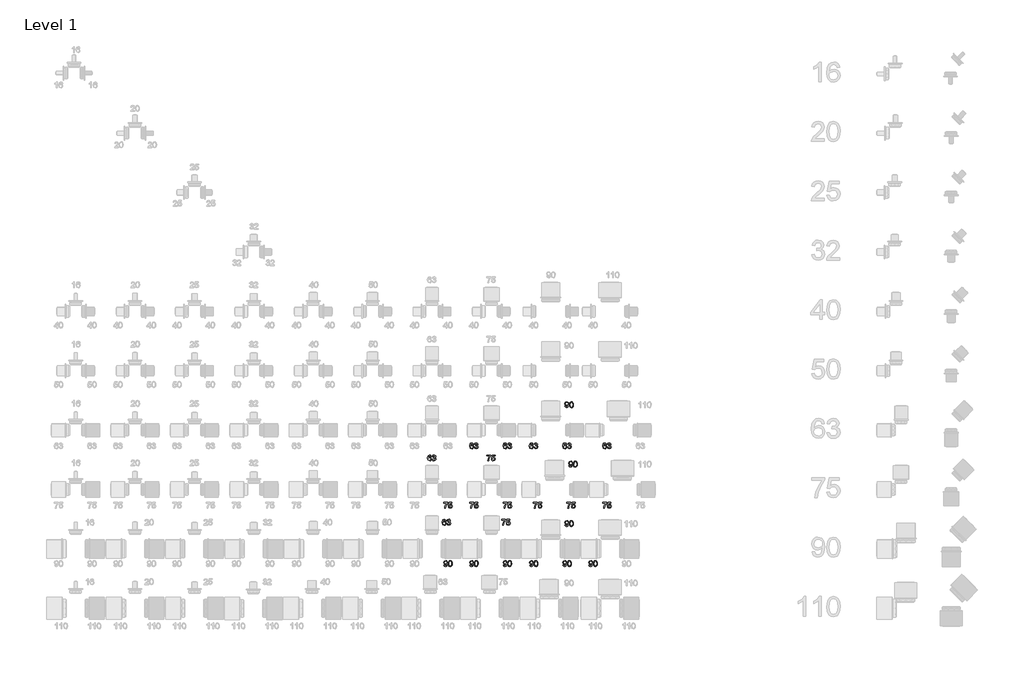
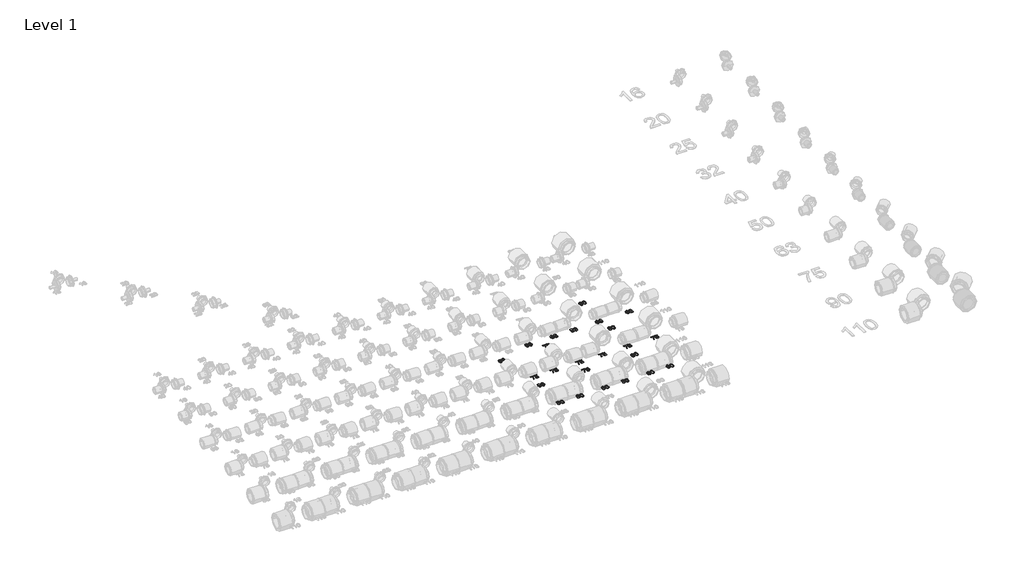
# One storey, part 23 of 58: 24 proxies.
"""IFC4 building model written with IfcOpenShell, lengths in millimetres."""

from ifc_helpers import new_model, si_unit, frame, origin, place, context, project, spatial, polyline, outline, extrude, element, save

model = new_model("IFC4")

# Units and contexts
model_context = context("Model", 3, world=origin())
ifc_project = project(units=[si_unit("LENGTHUNIT", "METRE", prefix="MILLI")], contexts=[model_context])

# Site, building, storey
site = spatial("IfcSite", under=ifc_project)
building = spatial("IfcBuilding", under=site)
storey = spatial("IfcBuildingStorey", under=building, Name="Level 1", Elevation=27.3876384)

# Proxies
placement = place(None, origin())
element("IfcBuildingElementProxy", 1, Name="30mm Arial", ObjectType="30mm Arial", at=placement, inside=storey, context=model_context, shape_type="SweptSolid", body=[
    extrude(outline(polyline([(15275.8418771, 16774.7106348), (15272.0747655, 16774.2397458), (15270.6473834, 16777.381458), (15266.8729141, 16778.9486353), (15263.4736845, 16778.036288), (15260.9021893, 16774.6113066), (15259.8316527, 16767.8974602), (15263.1536271, 16770.9030561), (15267.2702266, 16771.885301), (15273.6713734, 16769.1997625), (15276.3127661, 16762.261508), (15275.0693249, 16757.0633355), (15271.6480224, 16753.3845155), (15266.711046, 16752.107965), (15259.0333488, 16755.4924793), (15256.0645411, 16766.6466614), (15259.3607637, 16779.2797291), (15267.1083586, 16782.715747), (15273.0606892, 16780.589389), (15275.8418771, 16774.7106348)]), holes=[polyline([(15259.8316527, 16762.3203692), (15260.703533, 16759.0572559), (15263.0211896, 16756.6880958), (15266.4167404, 16755.8750766), (15270.8570761, 16757.5599761), (15272.5456545, 16762.1364282), (15270.879149, 16766.5179027), (15266.26223, 16768.1181894), (15261.7041721, 16766.5179027), (15259.8316527, 16762.3203692)])]), frame((0.0, 0.0, 27.3876384), z_axis=(0.0, 0.0, 1.0), x_axis=(1.0, 0.0, 0.0)), (0.0, 0.0, 1.0), 2.0),
    extrude(outline(polyline([(15279.6089888, 16760.5839661), (15283.3761004, 16761.0548551), (15285.4546337, 16757.0890872), (15289.3431464, 16755.8750766), (15293.9195984, 16757.5452609), (15295.6192132, 16761.6802545), (15293.9343137, 16765.5761248), (15289.6521672, 16767.1175504), (15287.0107745, 16766.7055225), (15287.43016, 16770.4726342), (15292.3082752, 16771.5100614), (15294.2065463, 16774.8357146), (15292.8306677, 16777.7824494), (15289.2842852, 16778.9486353), (15285.693757, 16777.771413), (15283.8469893, 16774.2397458), (15280.0798777, 16774.7106348), (15283.1627288, 16780.6188196), (15289.1518477, 16782.715747), (15293.6951904, 16781.6819986), (15296.8736908, 16778.8566648), (15297.973658, 16775.0564438), (15296.9288731, 16771.5836378), (15293.8386643, 16769.0893979), (15297.9442274, 16766.5142239), (15299.3863248, 16761.6140357), (15296.50213, 16754.8744376), (15289.2107088, 16752.107965), (15282.6035482, 16754.4697674), (15279.6089888, 16760.5839661)])), frame((0.0, 0.0, 27.3876384), z_axis=(0.0, 0.0, 1.0), x_axis=(1.0, 0.0, 0.0)), (0.0, 0.0, 1.0), 2.0),
])
element("IfcBuildingElementProxy", 2, Name="30mm Arial", ObjectType="30mm Arial", at=placement, inside=storey, context=model_context, shape_type="SweptSolid", body=[
    extrude(outline(polyline([(15444.5918771, 16774.7106348), (15440.8247655, 16774.2397458), (15439.3973834, 16777.381458), (15435.6229141, 16778.9486353), (15432.2236845, 16778.036288), (15429.6521893, 16774.6113066), (15428.5816527, 16767.8974602), (15431.9036271, 16770.9030561), (15436.0202266, 16771.885301), (15442.4213734, 16769.1997625), (15445.0627661, 16762.261508), (15443.8193249, 16757.0633355), (15440.3980224, 16753.3845155), (15435.461046, 16752.107965), (15427.7833488, 16755.4924793), (15424.8145411, 16766.6466614), (15428.1107637, 16779.2797291), (15435.8583586, 16782.715747), (15441.8106892, 16780.589389), (15444.5918771, 16774.7106348)]), holes=[polyline([(15428.5816527, 16762.3203692), (15429.453533, 16759.0572559), (15431.7711896, 16756.6880958), (15435.1667404, 16755.8750766), (15439.6070761, 16757.5599761), (15441.2956545, 16762.1364282), (15439.629149, 16766.5179027), (15435.01223, 16768.1181894), (15430.4541721, 16766.5179027), (15428.5816527, 16762.3203692)])]), frame((0.0, 0.0, 27.3876384), z_axis=(0.0, 0.0, 1.0), x_axis=(1.0, 0.0, 0.0)), (0.0, 0.0, 1.0), 2.0),
    extrude(outline(polyline([(15448.3589888, 16760.5839661), (15452.1261004, 16761.0548551), (15454.2046337, 16757.0890872), (15458.0931464, 16755.8750766), (15462.6695984, 16757.5452609), (15464.3692132, 16761.6802545), (15462.6843137, 16765.5761248), (15458.4021672, 16767.1175504), (15455.7607745, 16766.7055225), (15456.18016, 16770.4726342), (15461.0582752, 16771.5100614), (15462.9565463, 16774.8357146), (15461.5806677, 16777.7824494), (15458.0342852, 16778.9486353), (15454.443757, 16777.771413), (15452.5969893, 16774.2397458), (15448.8298777, 16774.7106348), (15451.9127288, 16780.6188196), (15457.9018477, 16782.715747), (15462.4451904, 16781.6819986), (15465.6236908, 16778.8566648), (15466.723658, 16775.0564438), (15465.6788731, 16771.5836378), (15462.5886643, 16769.0893979), (15466.6942274, 16766.5142239), (15468.1363248, 16761.6140357), (15465.25213, 16754.8744376), (15457.9607088, 16752.107965), (15451.3535482, 16754.4697674), (15448.3589888, 16760.5839661)])), frame((0.0, 0.0, 27.3876384), z_axis=(0.0, 0.0, 1.0), x_axis=(1.0, 0.0, 0.0)), (0.0, 0.0, 1.0), 2.0),
])
element("IfcBuildingElementProxy", 3, Name="30mm Arial", ObjectType="30mm Arial", at=placement, inside=storey, context=model_context, shape_type="SweptSolid", body=[
    extrude(outline(polyline([(15577.8418771, 16774.7106348), (15574.0747655, 16774.2397458), (15572.6473834, 16777.381458), (15568.8729141, 16778.9486353), (15565.4736845, 16778.036288), (15562.9021893, 16774.6113066), (15561.8316527, 16767.8974602), (15565.1536271, 16770.9030561), (15569.2702266, 16771.885301), (15575.6713734, 16769.1997625), (15578.3127661, 16762.261508), (15577.0693249, 16757.0633355), (15573.6480224, 16753.3845155), (15568.711046, 16752.107965), (15561.0333488, 16755.4924793), (15558.0645411, 16766.6466614), (15561.3607637, 16779.2797291), (15569.1083586, 16782.715747), (15575.0606892, 16780.589389), (15577.8418771, 16774.7106348)]), holes=[polyline([(15561.8316527, 16762.3203692), (15562.703533, 16759.0572559), (15565.0211896, 16756.6880958), (15568.4167404, 16755.8750766), (15572.8570761, 16757.5599761), (15574.5456545, 16762.1364282), (15572.879149, 16766.5179027), (15568.26223, 16768.1181894), (15563.7041721, 16766.5179027), (15561.8316527, 16762.3203692)])]), frame((0.0, 0.0, 27.3876384), z_axis=(0.0, 0.0, 1.0), x_axis=(1.0, 0.0, 0.0)), (0.0, 0.0, 1.0), 2.0),
    extrude(outline(polyline([(15581.6089888, 16760.5839661), (15585.3761004, 16761.0548551), (15587.4546337, 16757.0890872), (15591.3431464, 16755.8750766), (15595.9195984, 16757.5452609), (15597.6192132, 16761.6802545), (15595.9343137, 16765.5761248), (15591.6521672, 16767.1175504), (15589.0107745, 16766.7055225), (15589.43016, 16770.4726342), (15594.3082752, 16771.5100614), (15596.2065463, 16774.8357146), (15594.8306677, 16777.7824494), (15591.2842852, 16778.9486353), (15587.693757, 16777.771413), (15585.8469893, 16774.2397458), (15582.0798777, 16774.7106348), (15585.1627288, 16780.6188196), (15591.1518477, 16782.715747), (15595.6951904, 16781.6819986), (15598.8736908, 16778.8566648), (15599.973658, 16775.0564438), (15598.9288731, 16771.5836378), (15595.8386643, 16769.0893979), (15599.9442274, 16766.5142239), (15601.3863248, 16761.6140357), (15598.50213, 16754.8744376), (15591.2107088, 16752.107965), (15584.6035482, 16754.4697674), (15581.6089888, 16760.5839661)])), frame((0.0, 0.0, 27.3876384), z_axis=(0.0, 0.0, 1.0), x_axis=(1.0, 0.0, 0.0)), (0.0, 0.0, 1.0), 2.0),
])
element("IfcBuildingElementProxy", 4, Name="30mm Arial", ObjectType="30mm Arial", at=placement, inside=storey, context=model_context, shape_type="SweptSolid", body=[
    extrude(outline(polyline([(15746.5918771, 16774.7106348), (15742.8247655, 16774.2397458), (15741.3973834, 16777.381458), (15737.6229141, 16778.9486353), (15734.2236845, 16778.036288), (15731.6521893, 16774.6113066), (15730.5816527, 16767.8974602), (15733.9036271, 16770.9030561), (15738.0202266, 16771.885301), (15744.4213734, 16769.1997625), (15747.0627661, 16762.261508), (15745.8193249, 16757.0633355), (15742.3980224, 16753.3845155), (15737.461046, 16752.107965), (15729.7833488, 16755.4924793), (15726.8145411, 16766.6466614), (15730.1107637, 16779.2797291), (15737.8583586, 16782.715747), (15743.8106892, 16780.589389), (15746.5918771, 16774.7106348)]), holes=[polyline([(15730.5816527, 16762.3203692), (15731.453533, 16759.0572559), (15733.7711896, 16756.6880958), (15737.1667404, 16755.8750766), (15741.6070761, 16757.5599761), (15743.2956545, 16762.1364282), (15741.629149, 16766.5179027), (15737.01223, 16768.1181894), (15732.4541721, 16766.5179027), (15730.5816527, 16762.3203692)])]), frame((0.0, 0.0, 27.3876384), z_axis=(0.0, 0.0, 1.0), x_axis=(1.0, 0.0, 0.0)), (0.0, 0.0, 1.0), 2.0),
    extrude(outline(polyline([(15750.3589888, 16760.5839661), (15754.1261004, 16761.0548551), (15756.2046337, 16757.0890872), (15760.0931464, 16755.8750766), (15764.6695984, 16757.5452609), (15766.3692132, 16761.6802545), (15764.6843137, 16765.5761248), (15760.4021672, 16767.1175504), (15757.7607745, 16766.7055225), (15758.18016, 16770.4726342), (15763.0582752, 16771.5100614), (15764.9565463, 16774.8357146), (15763.5806677, 16777.7824494), (15760.0342852, 16778.9486353), (15756.443757, 16777.771413), (15754.5969893, 16774.2397458), (15750.8298777, 16774.7106348), (15753.9127288, 16780.6188196), (15759.9018477, 16782.715747), (15764.4451904, 16781.6819986), (15767.6236908, 16778.8566648), (15768.723658, 16775.0564438), (15767.6788731, 16771.5836378), (15764.5886643, 16769.0893979), (15768.6942274, 16766.5142239), (15770.1363248, 16761.6140357), (15767.25213, 16754.8744376), (15759.9607088, 16752.107965), (15753.3535482, 16754.4697674), (15750.3589888, 16760.5839661)])), frame((0.0, 0.0, 27.3876384), z_axis=(0.0, 0.0, 1.0), x_axis=(1.0, 0.0, 0.0)), (0.0, 0.0, 1.0), 2.0),
])
element("IfcBuildingElementProxy", 5, Name="30mm Arial", ObjectType="30mm Arial", at=placement, inside=storey, context=model_context, shape_type="SweptSolid", body=[
    extrude(outline(polyline([(15737.7749019, 16967.4145497), (15741.5420135, 16967.8854386), (15743.2342707, 16964.2912315), (15746.4422017, 16963.1765491), (15749.4919434, 16963.893919), (15751.5594403, 16965.8105842), (15752.7918449, 16969.0847339), (15753.3363103, 16973.455172), (15750.3012838, 16971.3361718), (15746.169969, 16970.2398834), (15739.8755081, 16972.9180643), (15737.3040129, 16979.974041), (15740.000588, 16987.2581045), (15746.7585802, 16990.0172195), (15752.1259785, 16988.4426845), (15755.8195138, 16983.9545242), (15757.081349, 16975.5226689), (15755.8231926, 16966.3734436), (15752.0818327, 16961.1899863), (15746.2656183, 16959.4094375), (15740.4751557, 16961.5100437), (15737.7749019, 16967.4145497)]), holes=[polyline([(15753.3142374, 16980.0623327), (15751.688199, 16984.5799236), (15747.3692643, 16986.2501078), (15742.8369581, 16984.4511649), (15741.0711246, 16979.7901), (15742.7413088, 16975.6146394), (15747.2662574, 16974.006995), (15751.6109437, 16975.6146394), (15753.3142374, 16980.0623327)])]), frame((0.0, 0.0, 27.3876384), z_axis=(0.0, 0.0, 1.0), x_axis=(1.0, 0.0, 0.0)), (0.0, 0.0, 1.0), 2.0),
    extrude(outline(polyline([(15760.3775717, 16974.7059708), (15761.4848965, 16983.3769495), (15764.7737615, 16988.3764658), (15770.2662397, 16990.0172195), (15774.6661084, 16989.046011), (15777.7048137, 16986.246429), (15779.4706472, 16981.7876992), (15780.1549077, 16974.7059708), (15779.0586194, 16966.0717804), (15775.7807908, 16961.0612276), (15770.2662397, 16959.4094375), (15763.3794888, 16962.278917), (15760.3775717, 16974.7059708)]), holes=[polyline([(15764.1446833, 16974.7133285), (15765.9105169, 16965.3580893), (15770.2662397, 16963.1765491), (15774.6219625, 16965.365447), (15776.3877961, 16974.7133285), (15774.6808237, 16983.9618818), (15770.2220939, 16986.2501078), (15765.969378, 16984.2341145), (15764.1446833, 16974.7133285)])]), frame((0.0, 0.0, 27.3876384), z_axis=(0.0, 0.0, 1.0), x_axis=(1.0, 0.0, 0.0)), (0.0, 0.0, 1.0), 2.0),
])
element("IfcBuildingElementProxy", 6, Name="30mm Arial", ObjectType="30mm Arial", at=placement, inside=storey, context=model_context, shape_type="SweptSolid", body=[
    extrude(outline(polyline([(15947.8418771, 16774.7106348), (15944.0747655, 16774.2397458), (15942.6473834, 16777.381458), (15938.8729141, 16778.9486353), (15935.4736845, 16778.036288), (15932.9021893, 16774.6113066), (15931.8316527, 16767.8974602), (15935.1536271, 16770.9030561), (15939.2702266, 16771.885301), (15945.6713734, 16769.1997625), (15948.3127661, 16762.261508), (15947.0693249, 16757.0633355), (15943.6480224, 16753.3845155), (15938.711046, 16752.107965), (15931.0333488, 16755.4924793), (15928.0645411, 16766.6466614), (15931.3607637, 16779.2797291), (15939.1083586, 16782.715747), (15945.0606892, 16780.589389), (15947.8418771, 16774.7106348)]), holes=[polyline([(15931.8316527, 16762.3203692), (15932.703533, 16759.0572559), (15935.0211896, 16756.6880958), (15938.4167404, 16755.8750766), (15942.8570761, 16757.5599761), (15944.5456545, 16762.1364282), (15942.879149, 16766.5179027), (15938.26223, 16768.1181894), (15933.7041721, 16766.5179027), (15931.8316527, 16762.3203692)])]), frame((0.0, 0.0, 27.3876384), z_axis=(0.0, 0.0, 1.0), x_axis=(1.0, 0.0, 0.0)), (0.0, 0.0, 1.0), 2.0),
    extrude(outline(polyline([(15951.6089888, 16760.5839661), (15955.3761004, 16761.0548551), (15957.4546337, 16757.0890872), (15961.3431464, 16755.8750766), (15965.9195984, 16757.5452609), (15967.6192132, 16761.6802545), (15965.9343137, 16765.5761248), (15961.6521672, 16767.1175504), (15959.0107745, 16766.7055225), (15959.43016, 16770.4726342), (15964.3082752, 16771.5100614), (15966.2065463, 16774.8357146), (15964.8306677, 16777.7824494), (15961.2842852, 16778.9486353), (15957.693757, 16777.771413), (15955.8469893, 16774.2397458), (15952.0798777, 16774.7106348), (15955.1627288, 16780.6188196), (15961.1518477, 16782.715747), (15965.6951904, 16781.6819986), (15968.8736908, 16778.8566648), (15969.973658, 16775.0564438), (15968.9288731, 16771.5836378), (15965.8386643, 16769.0893979), (15969.9442274, 16766.5142239), (15971.3863248, 16761.6140357), (15968.50213, 16754.8744376), (15961.2107088, 16752.107965), (15954.6035482, 16754.4697674), (15951.6089888, 16760.5839661)])), frame((0.0, 0.0, 27.3876384), z_axis=(0.0, 0.0, 1.0), x_axis=(1.0, 0.0, 0.0)), (0.0, 0.0, 1.0), 2.0),
])
element("IfcBuildingElementProxy", 7, Name="30mm Arial", ObjectType="30mm Arial", at=placement, inside=storey, context=model_context, shape_type="SweptSolid", body=[
    extrude(outline(polyline([(15125.28543, 16478.4777464), (15125.28543, 16482.244858), (15145.0627661, 16482.244858), (15145.0627661, 16479.1987951), (15139.4525657, 16471.0943547), (15135.1593828, 16460.7679071), (15133.7614312, 16452.5788539), (15129.9943196, 16452.5788539), (15131.4915993, 16461.076928), (15135.6008412, 16470.6823269), (15141.2956545, 16478.4777464), (15125.28543, 16478.4777464)])), frame((0.0, 0.0, 27.3876384), z_axis=(0.0, 0.0, 1.0), x_axis=(1.0, 0.0, 0.0)), (0.0, 0.0, 1.0), 2.0),
    extrude(outline(polyline([(15148.3589888, 16460.5839661), (15152.1261004, 16461.0548551), (15154.0243715, 16457.1737001), (15157.9607088, 16455.8750766), (15162.6843137, 16457.6813772), (15164.3692132, 16462.4748796), (15162.7909994, 16466.9483247), (15158.01957, 16468.5890784), (15154.7123108, 16467.9342484), (15152.5969893, 16466.2346336), (15148.8298777, 16466.7055225), (15152.1261004, 16482.244858), (15166.723658, 16482.244858), (15166.723658, 16478.4777464), (15155.1721633, 16478.4777464), (15153.5608402, 16470.1783286), (15159.0717125, 16472.35619), (15165.5133262, 16469.6559361), (15168.1363248, 16462.7103241), (15165.7745224, 16455.7205662), (15157.9459936, 16452.107965), (15151.2983659, 16454.4293004), (15148.3589888, 16460.5839661)])), frame((0.0, 0.0, 27.3876384), z_axis=(0.0, 0.0, 1.0), x_axis=(1.0, 0.0, 0.0)), (0.0, 0.0, 1.0), 2.0),
])
element("IfcBuildingElementProxy", 8, Name="30mm Arial", ObjectType="30mm Arial", at=placement, inside=storey, context=model_context, shape_type="SweptSolid", body=[
    extrude(outline(polyline([(15062.7700619, 16713.5292753), (15059.0029503, 16713.0583864), (15057.5755682, 16716.2000986), (15053.8010989, 16717.7672759), (15050.4018693, 16716.8549286), (15047.8303741, 16713.4299472), (15046.7598375, 16706.7161008), (15050.0818119, 16709.7216967), (15054.1984114, 16710.7039416), (15060.5995582, 16708.018403), (15063.2409509, 16701.0801486), (15061.9975097, 16695.881976), (15058.5762072, 16692.2031561), (15053.6392308, 16690.9266055), (15045.9615336, 16694.3111199), (15042.9927259, 16705.465302), (15046.2889486, 16718.0983697), (15054.0365434, 16721.5343875), (15059.9888741, 16719.4080296), (15062.7700619, 16713.5292753)]), holes=[polyline([(15046.7598375, 16701.1390097), (15047.6317178, 16697.8758964), (15049.9493744, 16695.5067364), (15053.3449252, 16694.6937172), (15057.7852609, 16696.3786167), (15059.4738393, 16700.9550687), (15057.8073338, 16705.3365433), (15053.1904148, 16706.93683), (15048.6323569, 16705.3365433), (15046.7598375, 16701.1390097)])]), frame((0.0, 0.0, 27.3876384), z_axis=(0.0, 0.0, 1.0), x_axis=(1.0, 0.0, 0.0)), (0.0, 0.0, 1.0), 2.0),
    extrude(outline(polyline([(15066.5371736, 16699.4026067), (15070.3042852, 16699.8734957), (15072.3828185, 16695.9077278), (15076.2713312, 16694.6937172), (15080.8477832, 16696.3639014), (15082.547398, 16700.4988951), (15080.8624985, 16704.3947654), (15076.580352, 16705.9361909), (15073.9389593, 16705.5241631), (15074.3583448, 16709.2912747), (15079.23646, 16710.328702), (15081.1347311, 16713.6543552), (15079.7588525, 16716.60109), (15076.21247, 16717.7672759), (15072.6219418, 16716.5900535), (15070.7751742, 16713.0583864), (15067.0080625, 16713.5292753), (15070.0909136, 16719.4374602), (15076.0800325, 16721.5343875), (15080.6233752, 16720.5006391), (15083.8018756, 16717.6753054), (15084.9018428, 16713.8750844), (15083.8570579, 16710.4022784), (15080.7668491, 16707.9080384), (15084.8724122, 16705.3328645), (15086.3145096, 16700.4326763), (15083.4303148, 16693.6930781), (15076.1388936, 16690.9266055), (15069.531733, 16693.2884079), (15066.5371736, 16699.4026067)])), frame((0.0, 0.0, 27.3876384), z_axis=(0.0, 0.0, 1.0), x_axis=(1.0, 0.0, 0.0)), (0.0, 0.0, 1.0), 2.0),
])
element("IfcBuildingElementProxy", 9, Name="30mm Arial", ObjectType="30mm Arial", at=placement, inside=storey, context=model_context, shape_type="SweptSolid", body=[
    extrude(outline(polyline([(15256.53543, 16478.4777464), (15256.53543, 16482.244858), (15276.3127661, 16482.244858), (15276.3127661, 16479.1987951), (15270.7025657, 16471.0943547), (15266.4093828, 16460.7679071), (15265.0114312, 16452.5788539), (15261.2443196, 16452.5788539), (15262.7415993, 16461.076928), (15266.8508412, 16470.6823269), (15272.5456545, 16478.4777464), (15256.53543, 16478.4777464)])), frame((0.0, 0.0, 27.3876384), z_axis=(0.0, 0.0, 1.0), x_axis=(1.0, 0.0, 0.0)), (0.0, 0.0, 1.0), 2.0),
    extrude(outline(polyline([(15279.6089888, 16460.5839661), (15283.3761004, 16461.0548551), (15285.2743715, 16457.1737001), (15289.2107088, 16455.8750766), (15293.9343137, 16457.6813772), (15295.6192132, 16462.4748796), (15294.0409994, 16466.9483247), (15289.26957, 16468.5890784), (15285.9623108, 16467.9342484), (15283.8469893, 16466.2346336), (15280.0798777, 16466.7055225), (15283.3761004, 16482.244858), (15297.973658, 16482.244858), (15297.973658, 16478.4777464), (15286.4221633, 16478.4777464), (15284.8108402, 16470.1783286), (15290.3217125, 16472.35619), (15296.7633262, 16469.6559361), (15299.3863248, 16462.7103241), (15297.0245224, 16455.7205662), (15289.1959936, 16452.107965), (15282.5483659, 16454.4293004), (15279.6089888, 16460.5839661)])), frame((0.0, 0.0, 27.3876384), z_axis=(0.0, 0.0, 1.0), x_axis=(1.0, 0.0, 0.0)), (0.0, 0.0, 1.0), 2.0),
])
element("IfcBuildingElementProxy", 10, Name="30mm Arial", ObjectType="30mm Arial", at=placement, inside=storey, context=model_context, shape_type="SweptSolid", body=[
    extrude(outline(polyline([(15425.28543, 16478.4777464), (15425.28543, 16482.244858), (15445.0627661, 16482.244858), (15445.0627661, 16479.1987951), (15439.4525657, 16471.0943547), (15435.1593828, 16460.7679071), (15433.7614312, 16452.5788539), (15429.9943196, 16452.5788539), (15431.4915993, 16461.076928), (15435.6008412, 16470.6823269), (15441.2956545, 16478.4777464), (15425.28543, 16478.4777464)])), frame((0.0, 0.0, 27.3876384), z_axis=(0.0, 0.0, 1.0), x_axis=(1.0, 0.0, 0.0)), (0.0, 0.0, 1.0), 2.0),
    extrude(outline(polyline([(15448.3589888, 16460.5839661), (15452.1261004, 16461.0548551), (15454.0243715, 16457.1737001), (15457.9607088, 16455.8750766), (15462.6843137, 16457.6813772), (15464.3692132, 16462.4748796), (15462.7909994, 16466.9483247), (15458.01957, 16468.5890784), (15454.7123108, 16467.9342484), (15452.5969893, 16466.2346336), (15448.8298777, 16466.7055225), (15452.1261004, 16482.244858), (15466.723658, 16482.244858), (15466.723658, 16478.4777464), (15455.1721633, 16478.4777464), (15453.5608402, 16470.1783286), (15459.0717125, 16472.35619), (15465.5133262, 16469.6559361), (15468.1363248, 16462.7103241), (15465.7745224, 16455.7205662), (15457.9459936, 16452.107965), (15451.2983659, 16454.4293004), (15448.3589888, 16460.5839661)])), frame((0.0, 0.0, 27.3876384), z_axis=(0.0, 0.0, 1.0), x_axis=(1.0, 0.0, 0.0)), (0.0, 0.0, 1.0), 2.0),
])
element("IfcBuildingElementProxy", 11, Name="30mm Arial", ObjectType="30mm Arial", at=placement, inside=storey, context=model_context, shape_type="SweptSolid", body=[
    extrude(outline(polyline([(15343.4636148, 16717.296387), (15343.4636148, 16721.0634986), (15363.2409509, 16721.0634986), (15363.2409509, 16718.0174357), (15357.6307505, 16709.9129953), (15353.3375676, 16699.5865477), (15351.939616, 16691.3974945), (15348.1725044, 16691.3974945), (15349.6697841, 16699.8955686), (15353.779026, 16709.5009675), (15359.4738393, 16717.296387), (15343.4636148, 16717.296387)])), frame((0.0, 0.0, 27.3876384), z_axis=(0.0, 0.0, 1.0), x_axis=(1.0, 0.0, 0.0)), (0.0, 0.0, 1.0), 2.0),
    extrude(outline(polyline([(15366.5371736, 16699.4026067), (15370.3042852, 16699.8734957), (15372.2025563, 16695.9923406), (15376.1388936, 16694.6937172), (15380.8624985, 16696.5000178), (15382.547398, 16701.2935202), (15380.9691842, 16705.7669652), (15376.1977548, 16707.4077189), (15372.8904956, 16706.752889), (15370.7751742, 16705.0532742), (15367.0080625, 16705.5241631), (15370.3042852, 16721.0634986), (15384.9018428, 16721.0634986), (15384.9018428, 16717.296387), (15373.3503481, 16717.296387), (15371.739025, 16708.9969691), (15377.2498973, 16711.1748306), (15383.691511, 16708.4745767), (15386.3145096, 16701.5289646), (15383.9527072, 16694.5392067), (15376.1241784, 16690.9266055), (15369.4765507, 16693.2479409), (15366.5371736, 16699.4026067)])), frame((0.0, 0.0, 27.3876384), z_axis=(0.0, 0.0, 1.0), x_axis=(1.0, 0.0, 0.0)), (0.0, 0.0, 1.0), 2.0),
])
element("IfcBuildingElementProxy", 12, Name="30mm Arial", ObjectType="30mm Arial", at=placement, inside=storey, context=model_context, shape_type="SweptSolid", body=[
    extrude(outline(polyline([(15578.53543, 16478.4777464), (15578.53543, 16482.244858), (15598.3127661, 16482.244858), (15598.3127661, 16479.1987951), (15592.7025657, 16471.0943547), (15588.4093828, 16460.7679071), (15587.0114312, 16452.5788539), (15583.2443196, 16452.5788539), (15584.7415993, 16461.076928), (15588.8508412, 16470.6823269), (15594.5456545, 16478.4777464), (15578.53543, 16478.4777464)])), frame((0.0, 0.0, 27.3876384), z_axis=(0.0, 0.0, 1.0), x_axis=(1.0, 0.0, 0.0)), (0.0, 0.0, 1.0), 2.0),
    extrude(outline(polyline([(15601.6089888, 16460.5839661), (15605.3761004, 16461.0548551), (15607.2743715, 16457.1737001), (15611.2107088, 16455.8750766), (15615.9343137, 16457.6813772), (15617.6192132, 16462.4748796), (15616.0409994, 16466.9483247), (15611.26957, 16468.5890784), (15607.9623108, 16467.9342484), (15605.8469893, 16466.2346336), (15602.0798777, 16466.7055225), (15605.3761004, 16482.244858), (15619.973658, 16482.244858), (15619.973658, 16478.4777464), (15608.4221633, 16478.4777464), (15606.8108402, 16470.1783286), (15612.3217125, 16472.35619), (15618.7633262, 16469.6559361), (15621.3863248, 16462.7103241), (15619.0245224, 16455.7205662), (15611.1959936, 16452.107965), (15604.5483659, 16454.4293004), (15601.6089888, 16460.5839661)])), frame((0.0, 0.0, 27.3876384), z_axis=(0.0, 0.0, 1.0), x_axis=(1.0, 0.0, 0.0)), (0.0, 0.0, 1.0), 2.0),
])
element("IfcBuildingElementProxy", 13, Name="30mm Arial", ObjectType="30mm Arial", at=placement, inside=storey, context=model_context, shape_type="SweptSolid", body=[
    extrude(outline(polyline([(15747.28543, 16478.4777464), (15747.28543, 16482.244858), (15767.0627661, 16482.244858), (15767.0627661, 16479.1987951), (15761.4525657, 16471.0943547), (15757.1593828, 16460.7679071), (15755.7614312, 16452.5788539), (15751.9943196, 16452.5788539), (15753.4915993, 16461.076928), (15757.6008412, 16470.6823269), (15763.2956545, 16478.4777464), (15747.28543, 16478.4777464)])), frame((0.0, 0.0, 27.3876384), z_axis=(0.0, 0.0, 1.0), x_axis=(1.0, 0.0, 0.0)), (0.0, 0.0, 1.0), 2.0),
    extrude(outline(polyline([(15770.3589888, 16460.5839661), (15774.1261004, 16461.0548551), (15776.0243715, 16457.1737001), (15779.9607088, 16455.8750766), (15784.6843137, 16457.6813772), (15786.3692132, 16462.4748796), (15784.7909994, 16466.9483247), (15780.01957, 16468.5890784), (15776.7123108, 16467.9342484), (15774.5969893, 16466.2346336), (15770.8298777, 16466.7055225), (15774.1261004, 16482.244858), (15788.723658, 16482.244858), (15788.723658, 16478.4777464), (15777.1721633, 16478.4777464), (15775.5608402, 16470.1783286), (15781.0717125, 16472.35619), (15787.5133262, 16469.6559361), (15790.1363248, 16462.7103241), (15787.7745224, 16455.7205662), (15779.9459936, 16452.107965), (15773.2983659, 16454.4293004), (15770.3589888, 16460.5839661)])), frame((0.0, 0.0, 27.3876384), z_axis=(0.0, 0.0, 1.0), x_axis=(1.0, 0.0, 0.0)), (0.0, 0.0, 1.0), 2.0),
])
element("IfcBuildingElementProxy", 14, Name="30mm Arial", ObjectType="30mm Arial", at=placement, inside=storey, context=model_context, shape_type="SweptSolid", body=[
    extrude(outline(polyline([(15757.7749019, 16667.4145497), (15761.5420135, 16667.8854386), (15763.2342707, 16664.2912315), (15766.4422017, 16663.1765491), (15769.4919434, 16663.893919), (15771.5594403, 16665.8105842), (15772.7918449, 16669.0847339), (15773.3363103, 16673.455172), (15770.3012838, 16671.3361718), (15766.169969, 16670.2398834), (15759.8755081, 16672.9180643), (15757.3040129, 16679.974041), (15760.000588, 16687.2581045), (15766.7585802, 16690.0172195), (15772.1259785, 16688.4426845), (15775.8195138, 16683.9545242), (15777.081349, 16675.5226689), (15775.8231926, 16666.3734436), (15772.0818327, 16661.1899863), (15766.2656183, 16659.4094375), (15760.4751557, 16661.5100437), (15757.7749019, 16667.4145497)]), holes=[polyline([(15773.3142374, 16680.0623327), (15771.688199, 16684.5799236), (15767.3692643, 16686.2501078), (15762.8369581, 16684.4511649), (15761.0711246, 16679.7901), (15762.7413088, 16675.6146394), (15767.2662574, 16674.006995), (15771.6109437, 16675.6146394), (15773.3142374, 16680.0623327)])]), frame((0.0, 0.0, 27.3876384), z_axis=(0.0, 0.0, 1.0), x_axis=(1.0, 0.0, 0.0)), (0.0, 0.0, 1.0), 2.0),
    extrude(outline(polyline([(15780.3775717, 16674.7059708), (15781.4848965, 16683.3769495), (15784.7737615, 16688.3764658), (15790.2662397, 16690.0172195), (15794.6661084, 16689.046011), (15797.7048137, 16686.246429), (15799.4706472, 16681.7876992), (15800.1549077, 16674.7059708), (15799.0586194, 16666.0717804), (15795.7807908, 16661.0612276), (15790.2662397, 16659.4094375), (15783.3794888, 16662.278917), (15780.3775717, 16674.7059708)]), holes=[polyline([(15784.1446833, 16674.7133285), (15785.9105169, 16665.3580893), (15790.2662397, 16663.1765491), (15794.6219625, 16665.365447), (15796.3877961, 16674.7133285), (15794.6808237, 16683.9618818), (15790.2220939, 16686.2501078), (15785.969378, 16684.2341145), (15784.1446833, 16674.7133285)])]), frame((0.0, 0.0, 27.3876384), z_axis=(0.0, 0.0, 1.0), x_axis=(1.0, 0.0, 0.0)), (0.0, 0.0, 1.0), 2.0),
])
element("IfcBuildingElementProxy", 15, Name="30mm Arial", ObjectType="30mm Arial", at=placement, inside=storey, context=model_context, shape_type="SweptSolid", body=[
    extrude(outline(polyline([(15928.53543, 16478.4777464), (15928.53543, 16482.244858), (15948.3127661, 16482.244858), (15948.3127661, 16479.1987951), (15942.7025657, 16471.0943547), (15938.4093828, 16460.7679071), (15937.0114312, 16452.5788539), (15933.2443196, 16452.5788539), (15934.7415993, 16461.076928), (15938.8508412, 16470.6823269), (15944.5456545, 16478.4777464), (15928.53543, 16478.4777464)])), frame((0.0, 0.0, 27.3876384), z_axis=(0.0, 0.0, 1.0), x_axis=(1.0, 0.0, 0.0)), (0.0, 0.0, 1.0), 2.0),
    extrude(outline(polyline([(15951.6089888, 16460.5839661), (15955.3761004, 16461.0548551), (15957.2743715, 16457.1737001), (15961.2107088, 16455.8750766), (15965.9343137, 16457.6813772), (15967.6192132, 16462.4748796), (15966.0409994, 16466.9483247), (15961.26957, 16468.5890784), (15957.9623108, 16467.9342484), (15955.8469893, 16466.2346336), (15952.0798777, 16466.7055225), (15955.3761004, 16482.244858), (15969.973658, 16482.244858), (15969.973658, 16478.4777464), (15958.4221633, 16478.4777464), (15956.8108402, 16470.1783286), (15962.3217125, 16472.35619), (15968.7633262, 16469.6559361), (15971.3863248, 16462.7103241), (15969.0245224, 16455.7205662), (15961.1959936, 16452.107965), (15954.5483659, 16454.4293004), (15951.6089888, 16460.5839661)])), frame((0.0, 0.0, 27.3876384), z_axis=(0.0, 0.0, 1.0), x_axis=(1.0, 0.0, 0.0)), (0.0, 0.0, 1.0), 2.0),
])
element("IfcBuildingElementProxy", 16, Name="30mm Arial", ObjectType="30mm Arial", at=placement, inside=storey, context=model_context, shape_type="SweptSolid", body=[
    extrude(outline(polyline([(15125.756319, 16165.1130772), (15129.5234306, 16165.5839661), (15131.2156878, 16161.9897591), (15134.4236188, 16160.8750766), (15137.4733605, 16161.5924465), (15139.5408573, 16163.5091117), (15140.773262, 16166.7832615), (15141.3177274, 16171.1536996), (15138.2827009, 16169.0346993), (15134.1513861, 16167.9384109), (15127.8569252, 16170.6165918), (15125.28543, 16177.6725685), (15127.982005, 16184.956632), (15134.7399973, 16187.715747), (15140.1073956, 16186.141212), (15143.8009308, 16181.6530517), (15145.0627661, 16173.2211964), (15143.8046097, 16164.0719711), (15140.0632498, 16158.8885138), (15134.2470354, 16157.107965), (15128.4565728, 16159.2085712), (15125.756319, 16165.1130772)]), holes=[polyline([(15141.2956545, 16177.7608602), (15139.669616, 16182.2784511), (15135.3506814, 16183.9486353), (15130.8183752, 16182.1496924), (15129.0525417, 16177.4886275), (15130.7227259, 16173.3131669), (15135.2476745, 16171.7055225), (15139.5923608, 16173.3131669), (15141.2956545, 16177.7608602)])]), frame((0.0, 0.0, 27.3876384), z_axis=(0.0, 0.0, 1.0), x_axis=(1.0, 0.0, 0.0)), (0.0, 0.0, 1.0), 2.0),
    extrude(outline(polyline([(15148.3589888, 16172.4044983), (15149.4663136, 16181.075477), (15152.7551786, 16186.0749933), (15158.2476568, 16187.715747), (15162.6475255, 16186.7445385), (15165.6862307, 16183.9449565), (15167.4520643, 16179.4862267), (15168.1363248, 16172.4044983), (15167.0400365, 16163.7703079), (15163.7622079, 16158.7597551), (15158.2476568, 16157.107965), (15151.3609058, 16159.9774445), (15148.3589888, 16172.4044983)]), holes=[polyline([(15152.1261004, 16172.411856), (15153.891934, 16163.0566168), (15158.2476568, 16160.8750766), (15162.6033796, 16163.0639745), (15164.3692132, 16172.411856), (15162.6622407, 16181.6604093), (15158.203511, 16183.9486353), (15153.9507951, 16181.932642), (15152.1261004, 16172.411856)])]), frame((0.0, 0.0, 27.3876384), z_axis=(0.0, 0.0, 1.0), x_axis=(1.0, 0.0, 0.0)), (0.0, 0.0, 1.0), 2.0),
])
element("IfcBuildingElementProxy", 17, Name="30mm Arial", ObjectType="30mm Arial", at=placement, inside=storey, context=model_context, shape_type="SweptSolid", body=[
    extrude(outline(polyline([(15257.006319, 16165.1130772), (15260.7734306, 16165.5839661), (15262.4656878, 16161.9897591), (15265.6736188, 16160.8750766), (15268.7233605, 16161.5924465), (15270.7908573, 16163.5091117), (15272.023262, 16166.7832615), (15272.5677274, 16171.1536996), (15269.5327009, 16169.0346993), (15265.4013861, 16167.9384109), (15259.1069252, 16170.6165918), (15256.53543, 16177.6725685), (15259.232005, 16184.956632), (15265.9899973, 16187.715747), (15271.3573956, 16186.141212), (15275.0509308, 16181.6530517), (15276.3127661, 16173.2211964), (15275.0546097, 16164.0719711), (15271.3132498, 16158.8885138), (15265.4970354, 16157.107965), (15259.7065728, 16159.2085712), (15257.006319, 16165.1130772)]), holes=[polyline([(15272.5456545, 16177.7608602), (15270.919616, 16182.2784511), (15266.6006814, 16183.9486353), (15262.0683752, 16182.1496924), (15260.3025417, 16177.4886275), (15261.9727259, 16173.3131669), (15266.4976745, 16171.7055225), (15270.8423608, 16173.3131669), (15272.5456545, 16177.7608602)])]), frame((0.0, 0.0, 27.3876384), z_axis=(0.0, 0.0, 1.0), x_axis=(1.0, 0.0, 0.0)), (0.0, 0.0, 1.0), 2.0),
    extrude(outline(polyline([(15279.6089888, 16172.4044983), (15280.7163136, 16181.075477), (15284.0051786, 16186.0749933), (15289.4976568, 16187.715747), (15293.8975255, 16186.7445385), (15296.9362307, 16183.9449565), (15298.7020643, 16179.4862267), (15299.3863248, 16172.4044983), (15298.2900365, 16163.7703079), (15295.0122079, 16158.7597551), (15289.4976568, 16157.107965), (15282.6109058, 16159.9774445), (15279.6089888, 16172.4044983)]), holes=[polyline([(15283.3761004, 16172.411856), (15285.141934, 16163.0566168), (15289.4976568, 16160.8750766), (15293.8533796, 16163.0639745), (15295.6192132, 16172.411856), (15293.9122407, 16181.6604093), (15289.453511, 16183.9486353), (15285.2007951, 16181.932642), (15283.3761004, 16172.411856)])]), frame((0.0, 0.0, 27.3876384), z_axis=(0.0, 0.0, 1.0), x_axis=(1.0, 0.0, 0.0)), (0.0, 0.0, 1.0), 2.0),
])
element("IfcBuildingElementProxy", 18, Name="30mm Arial", ObjectType="30mm Arial", at=placement, inside=storey, context=model_context, shape_type="SweptSolid", body=[
    extrude(outline(polyline([(15425.756319, 16165.1130772), (15429.5234306, 16165.5839661), (15431.2156878, 16161.9897591), (15434.4236188, 16160.8750766), (15437.4733605, 16161.5924465), (15439.5408573, 16163.5091117), (15440.773262, 16166.7832615), (15441.3177274, 16171.1536996), (15438.2827009, 16169.0346993), (15434.1513861, 16167.9384109), (15427.8569252, 16170.6165918), (15425.28543, 16177.6725685), (15427.982005, 16184.956632), (15434.7399973, 16187.715747), (15440.1073956, 16186.141212), (15443.8009308, 16181.6530517), (15445.0627661, 16173.2211964), (15443.8046097, 16164.0719711), (15440.0632498, 16158.8885138), (15434.2470354, 16157.107965), (15428.4565728, 16159.2085712), (15425.756319, 16165.1130772)]), holes=[polyline([(15441.2956545, 16177.7608602), (15439.669616, 16182.2784511), (15435.3506814, 16183.9486353), (15430.8183752, 16182.1496924), (15429.0525417, 16177.4886275), (15430.7227259, 16173.3131669), (15435.2476745, 16171.7055225), (15439.5923608, 16173.3131669), (15441.2956545, 16177.7608602)])]), frame((0.0, 0.0, 27.3876384), z_axis=(0.0, 0.0, 1.0), x_axis=(1.0, 0.0, 0.0)), (0.0, 0.0, 1.0), 2.0),
    extrude(outline(polyline([(15448.3589888, 16172.4044983), (15449.4663136, 16181.075477), (15452.7551786, 16186.0749933), (15458.2476568, 16187.715747), (15462.6475255, 16186.7445385), (15465.6862307, 16183.9449565), (15467.4520643, 16179.4862267), (15468.1363248, 16172.4044983), (15467.0400365, 16163.7703079), (15463.7622079, 16158.7597551), (15458.2476568, 16157.107965), (15451.3609058, 16159.9774445), (15448.3589888, 16172.4044983)]), holes=[polyline([(15452.1261004, 16172.411856), (15453.891934, 16163.0566168), (15458.2476568, 16160.8750766), (15462.6033796, 16163.0639745), (15464.3692132, 16172.411856), (15462.6622407, 16181.6604093), (15458.203511, 16183.9486353), (15453.9507951, 16181.932642), (15452.1261004, 16172.411856)])]), frame((0.0, 0.0, 27.3876384), z_axis=(0.0, 0.0, 1.0), x_axis=(1.0, 0.0, 0.0)), (0.0, 0.0, 1.0), 2.0),
])
element("IfcBuildingElementProxy", 19, Name="30mm Arial", ObjectType="30mm Arial", at=placement, inside=storey, context=model_context, shape_type="SweptSolid", body=[
    extrude(outline(polyline([(15559.006319, 16165.1130772), (15562.7734306, 16165.5839661), (15564.4656878, 16161.9897591), (15567.6736188, 16160.8750766), (15570.7233605, 16161.5924465), (15572.7908573, 16163.5091117), (15574.023262, 16166.7832615), (15574.5677274, 16171.1536996), (15571.5327009, 16169.0346993), (15567.4013861, 16167.9384109), (15561.1069252, 16170.6165918), (15558.53543, 16177.6725685), (15561.232005, 16184.956632), (15567.9899973, 16187.715747), (15573.3573956, 16186.141212), (15577.0509308, 16181.6530517), (15578.3127661, 16173.2211964), (15577.0546097, 16164.0719711), (15573.3132498, 16158.8885138), (15567.4970354, 16157.107965), (15561.7065728, 16159.2085712), (15559.006319, 16165.1130772)]), holes=[polyline([(15574.5456545, 16177.7608602), (15572.919616, 16182.2784511), (15568.6006814, 16183.9486353), (15564.0683752, 16182.1496924), (15562.3025417, 16177.4886275), (15563.9727259, 16173.3131669), (15568.4976745, 16171.7055225), (15572.8423608, 16173.3131669), (15574.5456545, 16177.7608602)])]), frame((0.0, 0.0, 27.3876384), z_axis=(0.0, 0.0, 1.0), x_axis=(1.0, 0.0, 0.0)), (0.0, 0.0, 1.0), 2.0),
    extrude(outline(polyline([(15581.6089888, 16172.4044983), (15582.7163136, 16181.075477), (15586.0051786, 16186.0749933), (15591.4976568, 16187.715747), (15595.8975255, 16186.7445385), (15598.9362307, 16183.9449565), (15600.7020643, 16179.4862267), (15601.3863248, 16172.4044983), (15600.2900365, 16163.7703079), (15597.0122079, 16158.7597551), (15591.4976568, 16157.107965), (15584.6109058, 16159.9774445), (15581.6089888, 16172.4044983)]), holes=[polyline([(15585.3761004, 16172.411856), (15587.141934, 16163.0566168), (15591.4976568, 16160.8750766), (15595.8533796, 16163.0639745), (15597.6192132, 16172.411856), (15595.9122407, 16181.6604093), (15591.453511, 16183.9486353), (15587.2007951, 16181.932642), (15585.3761004, 16172.411856)])]), frame((0.0, 0.0, 27.3876384), z_axis=(0.0, 0.0, 1.0), x_axis=(1.0, 0.0, 0.0)), (0.0, 0.0, 1.0), 2.0),
])
element("IfcBuildingElementProxy", 20, Name="30mm Arial", ObjectType="30mm Arial", at=placement, inside=storey, context=model_context, shape_type="SweptSolid", body=[
    extrude(outline(polyline([(15727.756319, 16165.1130772), (15731.5234306, 16165.5839661), (15733.2156878, 16161.9897591), (15736.4236188, 16160.8750766), (15739.4733605, 16161.5924465), (15741.5408573, 16163.5091117), (15742.773262, 16166.7832615), (15743.3177274, 16171.1536996), (15740.2827009, 16169.0346993), (15736.1513861, 16167.9384109), (15729.8569252, 16170.6165918), (15727.28543, 16177.6725685), (15729.982005, 16184.956632), (15736.7399973, 16187.715747), (15742.1073956, 16186.141212), (15745.8009308, 16181.6530517), (15747.0627661, 16173.2211964), (15745.8046097, 16164.0719711), (15742.0632498, 16158.8885138), (15736.2470354, 16157.107965), (15730.4565728, 16159.2085712), (15727.756319, 16165.1130772)]), holes=[polyline([(15743.2956545, 16177.7608602), (15741.669616, 16182.2784511), (15737.3506814, 16183.9486353), (15732.8183752, 16182.1496924), (15731.0525417, 16177.4886275), (15732.7227259, 16173.3131669), (15737.2476745, 16171.7055225), (15741.5923608, 16173.3131669), (15743.2956545, 16177.7608602)])]), frame((0.0, 0.0, 27.3876384), z_axis=(0.0, 0.0, 1.0), x_axis=(1.0, 0.0, 0.0)), (0.0, 0.0, 1.0), 2.0),
    extrude(outline(polyline([(15750.3589888, 16172.4044983), (15751.4663136, 16181.075477), (15754.7551786, 16186.0749933), (15760.2476568, 16187.715747), (15764.6475255, 16186.7445385), (15767.6862307, 16183.9449565), (15769.4520643, 16179.4862267), (15770.1363248, 16172.4044983), (15769.0400365, 16163.7703079), (15765.7622079, 16158.7597551), (15760.2476568, 16157.107965), (15753.3609058, 16159.9774445), (15750.3589888, 16172.4044983)]), holes=[polyline([(15754.1261004, 16172.411856), (15755.891934, 16163.0566168), (15760.2476568, 16160.8750766), (15764.6033796, 16163.0639745), (15766.3692132, 16172.411856), (15764.6622407, 16181.6604093), (15760.203511, 16183.9486353), (15755.9507951, 16181.932642), (15754.1261004, 16172.411856)])]), frame((0.0, 0.0, 27.3876384), z_axis=(0.0, 0.0, 1.0), x_axis=(1.0, 0.0, 0.0)), (0.0, 0.0, 1.0), 2.0),
])
element("IfcBuildingElementProxy", 21, Name="30mm Arial", ObjectType="30mm Arial", at=placement, inside=storey, context=model_context, shape_type="SweptSolid", body=[
    extrude(outline(polyline([(15737.7749019, 16367.4145497), (15741.5420135, 16367.8854386), (15743.2342707, 16364.2912315), (15746.4422017, 16363.1765491), (15749.4919434, 16363.893919), (15751.5594403, 16365.8105842), (15752.7918449, 16369.0847339), (15753.3363103, 16373.455172), (15750.3012838, 16371.3361718), (15746.169969, 16370.2398834), (15739.8755081, 16372.9180643), (15737.3040129, 16379.974041), (15740.000588, 16387.2581045), (15746.7585802, 16390.0172195), (15752.1259785, 16388.4426845), (15755.8195138, 16383.9545242), (15757.081349, 16375.5226689), (15755.8231926, 16366.3734436), (15752.0818327, 16361.1899863), (15746.2656183, 16359.4094375), (15740.4751557, 16361.5100437), (15737.7749019, 16367.4145497)]), holes=[polyline([(15753.3142374, 16380.0623327), (15751.688199, 16384.5799236), (15747.3692643, 16386.2501078), (15742.8369581, 16384.4511649), (15741.0711246, 16379.7901), (15742.7413088, 16375.6146394), (15747.2662574, 16374.006995), (15751.6109437, 16375.6146394), (15753.3142374, 16380.0623327)])]), frame((0.0, 0.0, 27.3876384), z_axis=(0.0, 0.0, 1.0), x_axis=(1.0, 0.0, 0.0)), (0.0, 0.0, 1.0), 2.0),
    extrude(outline(polyline([(15760.3775717, 16374.7059708), (15761.4848965, 16383.3769495), (15764.7737615, 16388.3764658), (15770.2662397, 16390.0172195), (15774.6661084, 16389.046011), (15777.7048137, 16386.246429), (15779.4706472, 16381.7876992), (15780.1549077, 16374.7059708), (15779.0586194, 16366.0717804), (15775.7807908, 16361.0612276), (15770.2662397, 16359.4094375), (15763.3794888, 16362.278917), (15760.3775717, 16374.7059708)]), holes=[polyline([(15764.1446833, 16374.7133285), (15765.9105169, 16365.3580893), (15770.2662397, 16363.1765491), (15774.6219625, 16365.365447), (15776.3877961, 16374.7133285), (15774.6808237, 16383.9618818), (15770.2220939, 16386.2501078), (15765.969378, 16384.2341145), (15764.1446833, 16374.7133285)])]), frame((0.0, 0.0, 27.3876384), z_axis=(0.0, 0.0, 1.0), x_axis=(1.0, 0.0, 0.0)), (0.0, 0.0, 1.0), 2.0),
])
element("IfcBuildingElementProxy", 22, Name="30mm Arial", ObjectType="30mm Arial", at=placement, inside=storey, context=model_context, shape_type="SweptSolid", body=[
    extrude(outline(polyline([(15859.006319, 16165.1130772), (15862.7734306, 16165.5839661), (15864.4656878, 16161.9897591), (15867.6736188, 16160.8750766), (15870.7233605, 16161.5924465), (15872.7908573, 16163.5091117), (15874.023262, 16166.7832615), (15874.5677274, 16171.1536996), (15871.5327009, 16169.0346993), (15867.4013861, 16167.9384109), (15861.1069252, 16170.6165918), (15858.53543, 16177.6725685), (15861.232005, 16184.956632), (15867.9899973, 16187.715747), (15873.3573956, 16186.141212), (15877.0509308, 16181.6530517), (15878.3127661, 16173.2211964), (15877.0546097, 16164.0719711), (15873.3132498, 16158.8885138), (15867.4970354, 16157.107965), (15861.7065728, 16159.2085712), (15859.006319, 16165.1130772)]), holes=[polyline([(15874.5456545, 16177.7608602), (15872.919616, 16182.2784511), (15868.6006814, 16183.9486353), (15864.0683752, 16182.1496924), (15862.3025417, 16177.4886275), (15863.9727259, 16173.3131669), (15868.4976745, 16171.7055225), (15872.8423608, 16173.3131669), (15874.5456545, 16177.7608602)])]), frame((0.0, 0.0, 27.3876384), z_axis=(0.0, 0.0, 1.0), x_axis=(1.0, 0.0, 0.0)), (0.0, 0.0, 1.0), 2.0),
    extrude(outline(polyline([(15881.6089888, 16172.4044983), (15882.7163136, 16181.075477), (15886.0051786, 16186.0749933), (15891.4976568, 16187.715747), (15895.8975255, 16186.7445385), (15898.9362307, 16183.9449565), (15900.7020643, 16179.4862267), (15901.3863248, 16172.4044983), (15900.2900365, 16163.7703079), (15897.0122079, 16158.7597551), (15891.4976568, 16157.107965), (15884.6109058, 16159.9774445), (15881.6089888, 16172.4044983)]), holes=[polyline([(15885.3761004, 16172.411856), (15887.141934, 16163.0566168), (15891.4976568, 16160.8750766), (15895.8533796, 16163.0639745), (15897.6192132, 16172.411856), (15895.9122407, 16181.6604093), (15891.453511, 16183.9486353), (15887.2007951, 16181.932642), (15885.3761004, 16172.411856)])]), frame((0.0, 0.0, 27.3876384), z_axis=(0.0, 0.0, 1.0), x_axis=(1.0, 0.0, 0.0)), (0.0, 0.0, 1.0), 2.0),
])
element("IfcBuildingElementProxy", 23, Name="30mm Arial", ObjectType="30mm Arial", at=placement, inside=storey, context=model_context, shape_type="SweptSolid", body=[
    extrude(outline(polyline([(15136.7700619, 16388.5292753), (15133.0029503, 16388.0583864), (15131.5755682, 16391.2000986), (15127.8010989, 16392.7672759), (15124.4018693, 16391.8549286), (15121.8303741, 16388.4299472), (15120.7598375, 16381.7161008), (15124.0818119, 16384.7216967), (15128.1984114, 16385.7039416), (15134.5995582, 16383.018403), (15137.2409509, 16376.0801486), (15135.9975097, 16370.881976), (15132.5762072, 16367.2031561), (15127.6392308, 16365.9266055), (15119.9615336, 16369.3111199), (15116.9927259, 16380.465302), (15120.2889486, 16393.0983697), (15128.0365434, 16396.5343875), (15133.9888741, 16394.4080296), (15136.7700619, 16388.5292753)]), holes=[polyline([(15120.7598375, 16376.1390097), (15121.6317178, 16372.8758964), (15123.9493744, 16370.5067364), (15127.3449252, 16369.6937172), (15131.7852609, 16371.3786167), (15133.4738393, 16375.9550687), (15131.8073338, 16380.3365433), (15127.1904148, 16381.93683), (15122.6323569, 16380.3365433), (15120.7598375, 16376.1390097)])]), frame((0.0, 0.0, 27.3876384), z_axis=(0.0, 0.0, 1.0), x_axis=(1.0, 0.0, 0.0)), (0.0, 0.0, 1.0), 2.0),
    extrude(outline(polyline([(15140.5371736, 16374.4026067), (15144.3042852, 16374.8734957), (15146.3828185, 16370.9077278), (15150.2713312, 16369.6937172), (15154.8477832, 16371.3639014), (15156.547398, 16375.4988951), (15154.8624985, 16379.3947654), (15150.580352, 16380.9361909), (15147.9389593, 16380.5241631), (15148.3583448, 16384.2912747), (15153.23646, 16385.328702), (15155.1347311, 16388.6543552), (15153.7588525, 16391.60109), (15150.21247, 16392.7672759), (15146.6219418, 16391.5900535), (15144.7751742, 16388.0583864), (15141.0080625, 16388.5292753), (15144.0909136, 16394.4374602), (15150.0800325, 16396.5343875), (15154.6233752, 16395.5006391), (15157.8018756, 16392.6753054), (15158.9018428, 16388.8750844), (15157.8570579, 16385.4022784), (15154.7668491, 16382.9080384), (15158.8724122, 16380.3328645), (15160.3145096, 16375.4326763), (15157.4303148, 16368.6930781), (15150.1388936, 16365.9266055), (15143.531733, 16368.2884079), (15140.5371736, 16374.4026067)])), frame((0.0, 0.0, 27.3876384), z_axis=(0.0, 0.0, 1.0), x_axis=(1.0, 0.0, 0.0)), (0.0, 0.0, 1.0), 2.0),
])
element("IfcBuildingElementProxy", 24, Name="30mm Arial", ObjectType="30mm Arial", at=placement, inside=storey, context=model_context, shape_type="SweptSolid", body=[
    extrude(outline(polyline([(15417.4636148, 16392.296387), (15417.4636148, 16396.0634986), (15437.2409509, 16396.0634986), (15437.2409509, 16393.0174357), (15431.6307505, 16384.9129953), (15427.3375676, 16374.5865477), (15425.939616, 16366.3974945), (15422.1725044, 16366.3974945), (15423.6697841, 16374.8955686), (15427.779026, 16384.5009675), (15433.4738393, 16392.296387), (15417.4636148, 16392.296387)])), frame((0.0, 0.0, 27.3876384), z_axis=(0.0, 0.0, 1.0), x_axis=(1.0, 0.0, 0.0)), (0.0, 0.0, 1.0), 2.0),
    extrude(outline(polyline([(15440.5371736, 16374.4026067), (15444.3042852, 16374.8734957), (15446.2025563, 16370.9923406), (15450.1388936, 16369.6937172), (15454.8624985, 16371.5000178), (15456.547398, 16376.2935202), (15454.9691842, 16380.7669652), (15450.1977548, 16382.4077189), (15446.8904956, 16381.752889), (15444.7751742, 16380.0532742), (15441.0080625, 16380.5241631), (15444.3042852, 16396.0634986), (15458.9018428, 16396.0634986), (15458.9018428, 16392.296387), (15447.3503481, 16392.296387), (15445.739025, 16383.9969691), (15451.2498973, 16386.1748306), (15457.691511, 16383.4745767), (15460.3145096, 16376.5289646), (15457.9527072, 16369.5392067), (15450.1241784, 16365.9266055), (15443.4765507, 16368.2479409), (15440.5371736, 16374.4026067)])), frame((0.0, 0.0, 27.3876384), z_axis=(0.0, 0.0, 1.0), x_axis=(1.0, 0.0, 0.0)), (0.0, 0.0, 1.0), 2.0),
])

save(model, "model.ifc")
